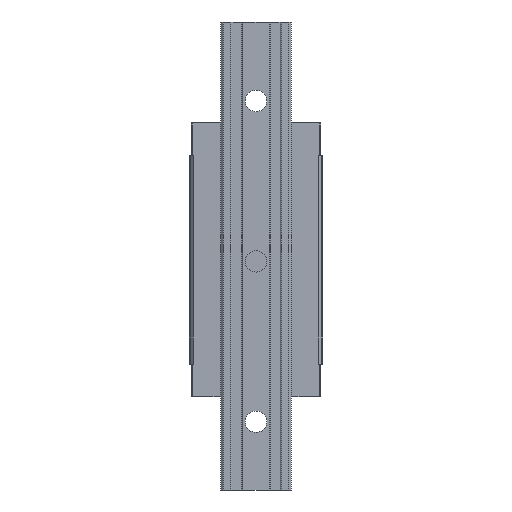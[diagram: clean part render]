
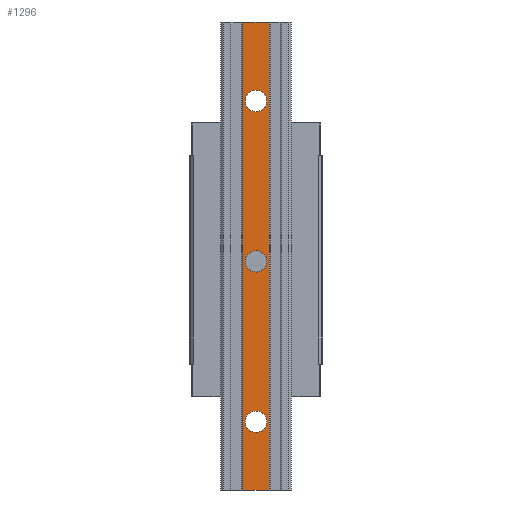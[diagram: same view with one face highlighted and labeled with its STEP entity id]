
A CAD part, front view. The second image highlights one B-rep face of the part: STEP entity #1296.
In plain terms, the highlighted planar face has unit normal (0, -1, 0).
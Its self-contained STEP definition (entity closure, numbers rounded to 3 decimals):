
#383=DIRECTION('',(0.,0.,-1.));
#384=VECTOR('',#383,350.);
#385=CARTESIAN_POINT('',(9.8,-44.,100.));
#386=LINE('',#385,#384);
#387=DIRECTION('',(-1.,0.,0.));
#388=VECTOR('',#387,19.6);
#389=CARTESIAN_POINT('',(9.8,-44.,-250.));
#390=LINE('',#389,#388);
#391=DIRECTION('',(1.,0.,0.));
#392=VECTOR('',#391,19.6);
#393=CARTESIAN_POINT('',(-9.8,-44.,100.));
#394=LINE('',#393,#392);
#395=CARTESIAN_POINT('',(0.,-44.,-199.));
#396=DIRECTION('',(0.,-1.,0.));
#397=DIRECTION('',(0.,0.,-1.));
#398=AXIS2_PLACEMENT_3D('',#395,#396,#397);
#400=CARTESIAN_POINT('',(0.,-44.,-199.));
#401=DIRECTION('',(0.,-1.,0.));
#402=DIRECTION('',(0.,0.,1.));
#403=AXIS2_PLACEMENT_3D('',#400,#401,#402);
#405=CARTESIAN_POINT('',(0.,-44.,-79.));
#406=DIRECTION('',(0.,-1.,0.));
#407=DIRECTION('',(0.,0.,-1.));
#408=AXIS2_PLACEMENT_3D('',#405,#406,#407);
#410=CARTESIAN_POINT('',(0.,-44.,-79.));
#411=DIRECTION('',(0.,-1.,0.));
#412=DIRECTION('',(0.,0.,1.));
#413=AXIS2_PLACEMENT_3D('',#410,#411,#412);
#415=CARTESIAN_POINT('',(0.,-44.,41.));
#416=DIRECTION('',(0.,-1.,0.));
#417=DIRECTION('',(0.,0.,-1.));
#418=AXIS2_PLACEMENT_3D('',#415,#416,#417);
#420=CARTESIAN_POINT('',(0.,-44.,41.));
#421=DIRECTION('',(0.,-1.,0.));
#422=DIRECTION('',(0.,0.,1.));
#423=AXIS2_PLACEMENT_3D('',#420,#421,#422);
#425=DIRECTION('',(0.,0.,-1.));
#426=VECTOR('',#425,350.);
#427=CARTESIAN_POINT('',(-9.8,-44.,100.));
#428=LINE('',#427,#426);
#651=CARTESIAN_POINT('',(-9.8,-44.,-250.));
#652=VERTEX_POINT('',#651);
#653=CARTESIAN_POINT('',(9.8,-44.,-250.));
#654=VERTEX_POINT('',#653);
#737=CARTESIAN_POINT('',(9.8,-44.,100.));
#738=VERTEX_POINT('',#737);
#739=CARTESIAN_POINT('',(-9.8,-44.,100.));
#740=VERTEX_POINT('',#739);
#757=CARTESIAN_POINT('',(0.,-44.,-207.));
#758=CARTESIAN_POINT('',(0.,-44.,-191.));
#759=VERTEX_POINT('',#757);
#760=VERTEX_POINT('',#758);
#761=CARTESIAN_POINT('',(0.,-44.,-87.));
#762=CARTESIAN_POINT('',(0.,-44.,-71.));
#763=VERTEX_POINT('',#761);
#764=VERTEX_POINT('',#762);
#765=CARTESIAN_POINT('',(0.,-44.,33.));
#766=CARTESIAN_POINT('',(0.,-44.,49.));
#767=VERTEX_POINT('',#765);
#768=VERTEX_POINT('',#766);
#1266=CARTESIAN_POINT('',(-9.8,-44.,-200.));
#1267=DIRECTION('',(0.,-1.,0.));
#1268=DIRECTION('',(1.,0.,0.));
#1269=AXIS2_PLACEMENT_3D('',#1266,#1267,#1268);
#1270=PLANE('',#1269);
#1271=ORIENTED_EDGE('',*,*,#1260,.T.);
#1272=ORIENTED_EDGE('',*,*,#900,.T.);
#1274=ORIENTED_EDGE('',*,*,#1273,.F.);
#1275=ORIENTED_EDGE('',*,*,#1168,.T.);
#1276=EDGE_LOOP('',(#1271,#1272,#1274,#1275));
#1277=FACE_OUTER_BOUND('',#1276,.F.);
#1279=ORIENTED_EDGE('',*,*,#1278,.T.);
#1281=ORIENTED_EDGE('',*,*,#1280,.T.);
#1282=EDGE_LOOP('',(#1279,#1281));
#1283=FACE_BOUND('',#1282,.F.);
#1285=ORIENTED_EDGE('',*,*,#1284,.T.);
#1287=ORIENTED_EDGE('',*,*,#1286,.T.);
#1288=EDGE_LOOP('',(#1285,#1287));
#1289=FACE_BOUND('',#1288,.F.);
#1291=ORIENTED_EDGE('',*,*,#1290,.T.);
#1293=ORIENTED_EDGE('',*,*,#1292,.T.);
#1294=EDGE_LOOP('',(#1291,#1293));
#1295=FACE_BOUND('',#1294,.F.);
#1296=ADVANCED_FACE('',(#1277,#1283,#1289,#1295),#1270,.T.);
#399=CIRCLE('',#398,8.);
#404=CIRCLE('',#403,8.);
#409=CIRCLE('',#408,8.);
#414=CIRCLE('',#413,8.);
#419=CIRCLE('',#418,8.);
#424=CIRCLE('',#423,8.);
#900=EDGE_CURVE('',#654,#652,#390,.T.);
#1168=EDGE_CURVE('',#740,#738,#394,.T.);
#1260=EDGE_CURVE('',#738,#654,#386,.T.);
#1273=EDGE_CURVE('',#740,#652,#428,.T.);
#1278=EDGE_CURVE('',#759,#760,#399,.T.);
#1280=EDGE_CURVE('',#760,#759,#404,.T.);
#1284=EDGE_CURVE('',#763,#764,#409,.T.);
#1286=EDGE_CURVE('',#764,#763,#414,.T.);
#1290=EDGE_CURVE('',#767,#768,#419,.T.);
#1292=EDGE_CURVE('',#768,#767,#424,.T.);
